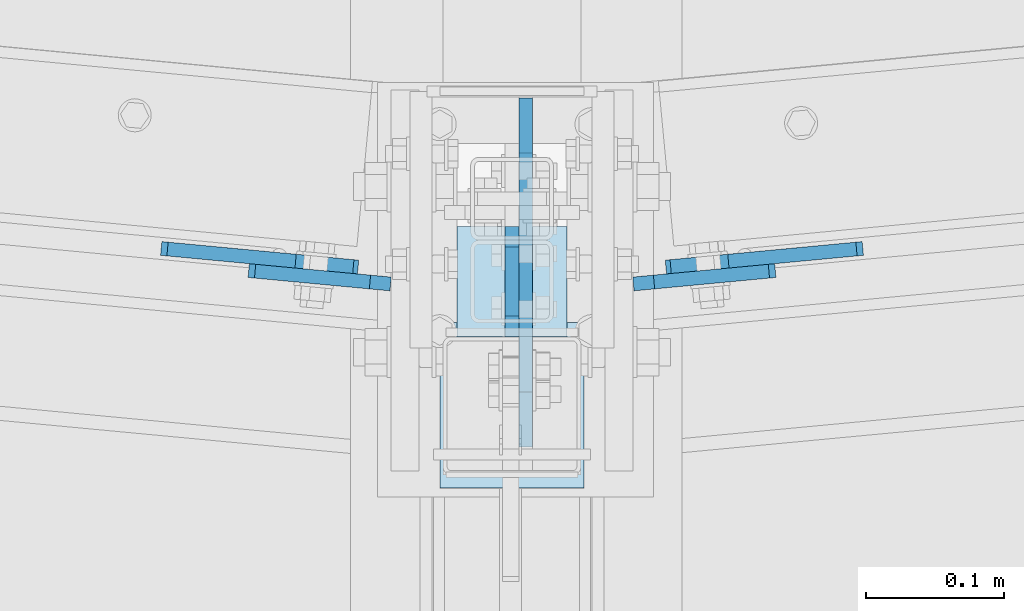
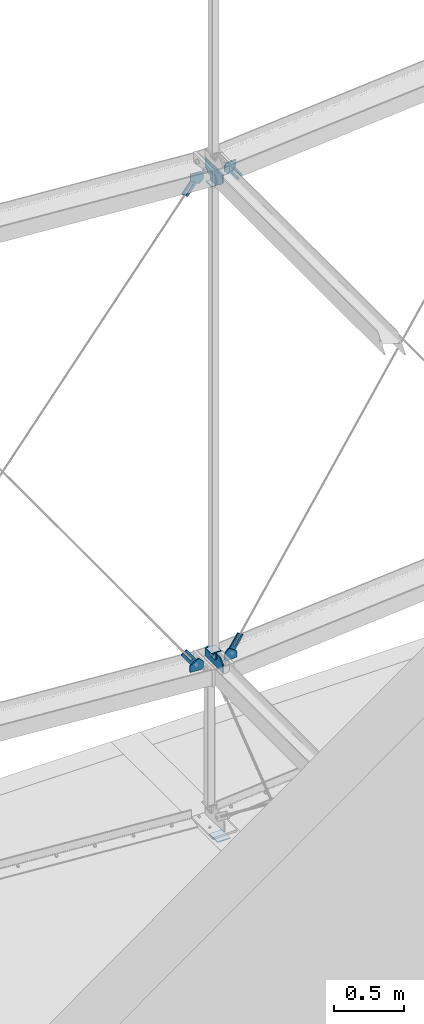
# One storey, part 130 of 271: 15 plates, 12 elements without a shape of their own.
"""IFC2X3 building model written with IfcOpenShell, lengths in millimetres."""

from ifc_helpers import new_model, si_unit, frame, origin_with_axes, place, context, subcontext, project, spatial, polyline, outline, extrude, material, type_object, element, aggregate, save


model = new_model("IFC2X3")

# Units and contexts
model_context = context("Model", 3, precision=1e-05, world=origin_with_axes())
body_context = subcontext(model_context, "Body", "Model", "MODEL_VIEW")
ifc_project = project(units=[si_unit("LENGTHUNIT", "METRE", prefix="MILLI"), si_unit("AREAUNIT", "SQUARE_METRE"), si_unit("VOLUMEUNIT", "CUBIC_METRE"), si_unit("MASSUNIT", "GRAM", prefix="KILO"), si_unit("TIMEUNIT", "SECOND"), si_unit("PLANEANGLEUNIT", "RADIAN"), si_unit("SOLIDANGLEUNIT", "STERADIAN"), si_unit("THERMODYNAMICTEMPERATUREUNIT", "DEGREE_CELSIUS"), si_unit("LUMINOUSINTENSITYUNIT", "LUMEN")], contexts=[model_context])

# Site, building, storey
site_placement = place(None, origin_with_axes())
site = spatial("IfcSite", under=ifc_project, at=site_placement, Name="Undefined", CompositionType="ELEMENT")
building_placement = place(site_placement, origin_with_axes())
building = spatial("IfcBuilding", under=site, at=building_placement, Name="Undefined", CompositionType="ELEMENT")
storey_placement = place(building_placement, origin_with_axes())
storey = spatial("IfcBuildingStorey", under=building, at=storey_placement, Name="Undefined", CompositionType="ELEMENT", Elevation=0.0)

# Assembly, plates
assembly_1_placement = place(storey_placement, origin_with_axes())
assembly_1 = element("IfcElementAssembly", 1, at=assembly_1_placement, inside=storey, AssemblyPlace="NOTDEFINED", PredefinedType="RIGID_FRAME")
ifc_material = material(Name="STEEL/S355JR")
plate_type_1 = type_object("IfcPlateType", Name="BL10*70", PredefinedType="NOTDEFINED")
plate_1_placement = place(assembly_1_placement, frame((6348.37568736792, 3664.92439872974, 5606.59999990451), z_axis=(-1.0, 0.0, 1.38777878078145e-17), x_axis=(0.0, 0.707106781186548, 0.707106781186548)))
plate_1 = element("IfcPlate", 2, at=plate_1_placement, type_object=plate_type_1, material=ifc_material, Name="BLACHA", ObjectType="BL10*70", context=body_context, shape_type="SweptSolid", body=[
    extrude(outline(polyline([(0.0, 0.0), (21.2132034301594, 1.09139364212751e-11), (56.5685424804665, 35.3553390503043), (56.568542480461, 56.5685424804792), (17.6776695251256, 95.4594192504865), (-38.890872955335, 38.8908729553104), (0.0, 0.0)])), frame((0.0, 0.0, -5.0), z_axis=(0.0, 0.0, 1.0), x_axis=(1.0, 0.0, 0.0)), (0.0, 0.0, 1.0), 10.0),
])
plate_2_placement = place(assembly_1_placement, frame((6348.37568736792, 3744.92439872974, 1442.09999990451), z_axis=(-1.0, 0.0, 1.38777878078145e-17), x_axis=(0.0, -0.707106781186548, -0.707106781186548)))
plate_2 = element("IfcPlate", 3, at=plate_2_placement, type_object=plate_type_1, material=ifc_material, Name="BLACHA", ObjectType="BL10*70", context=body_context, shape_type="SweptSolid", body=[
    extrude(outline(polyline([(0.0, 0.0), (21.2132034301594, 1.09139364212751e-11), (56.5685424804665, 35.3553390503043), (56.568542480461, 56.5685424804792), (17.6776695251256, 95.4594192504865), (-38.890872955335, 38.8908729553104), (0.0, 0.0)])), frame((0.0, 0.0, -5.0), z_axis=(0.0, 0.0, 1.0), x_axis=(1.0, 0.0, 0.0)), (0.0, 0.0, 1.0), 10.0),
])

# Assembly, plate
assembly_2_placement = place(storey_placement, origin_with_axes())
assembly_2 = element("IfcElementAssembly", 4, at=assembly_2_placement, inside=storey, AssemblyPlace="NOTDEFINED", PredefinedType="RIGID_FRAME")
plate_type_2 = type_object("IfcPlateType", Name="BL8*104", PredefinedType="NOTDEFINED")
plate_3_placement = place(assembly_2_placement, frame((6400.37568736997, 3675.32498425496, -59.6500000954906), z_axis=(0.0, 0.0, 1.0), x_axis=(-1.0, 0.0, 1.38777878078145e-17)))
plate_3 = element("IfcPlate", 5, at=plate_3_placement, type_object=plate_type_2, material=ifc_material, Name="BLACHA", ObjectType="BL8*104", context=body_context, shape_type="SweptSolid", body=[
    extrude(outline(polyline([(0.0, 0.0), (104.0, 0.0), (104.0, 120.0), (0.0, 120.0), (0.0, 0.0)])), frame((0.0, 0.0, -4.0), z_axis=(0.0, 0.0, 1.0), x_axis=(1.0, 0.0, 0.0)), (0.0, 0.0, 1.0), 8.0),
])
aggregate(assembly_2, [plate_3])

# Plate
plate_type_3 = type_object("IfcPlateType", Name="BL8*80", PredefinedType="NOTDEFINED")
plate_4_placement = place(assembly_1_placement, frame((6388.37568736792, 3664.92439872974, 5547.59999990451), z_axis=(0.0, 0.0, 1.0), x_axis=(0.0, 1.0, 0.0)))
plate_4 = element("IfcPlate", 6, at=plate_4_placement, type_object=plate_type_3, material=ifc_material, Name="BLACHA", ObjectType="BL8*80", context=body_context, shape_type="SweptSolid", body=[
    extrude(outline(polyline([(0.0, 0.0), (80.0, 0.0), (80.0, 80.0), (0.0, 80.0), (0.0, 0.0)])), frame((0.0, 0.0, -4.0), z_axis=(0.0, 0.0, 1.0), x_axis=(1.0, 0.0, 0.0)), (0.0, 0.0, 1.0), 8.0),
])

plate_5_placement = place(assembly_1_placement, frame((6388.37568736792, 3744.92439872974, 1501.09999990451), z_axis=(0.0, 0.0, -1.0), x_axis=(0.0, -1.0, 0.0)))
plate_5 = element("IfcPlate", 7, at=plate_5_placement, type_object=plate_type_3, material=ifc_material, Name="BLACHA", ObjectType="BL8*80", context=body_context, shape_type="SweptSolid", body=[
    extrude(outline(polyline([(0.0, 0.0), (80.0, 0.0), (80.0, 80.0), (0.0, 80.0), (0.0, 0.0)])), frame((0.0, 0.0, -4.0), z_axis=(0.0, 0.0, 1.0), x_axis=(1.0, 0.0, 0.0)), (0.0, 0.0, 1.0), 8.0),
])

aggregate(assembly_1, [plate_4, plate_1, plate_5, plate_2])

# Assembly, plate
assembly_3_placement = place(storey_placement, origin_with_axes())
assembly_3 = element("IfcElementAssembly", 8, at=assembly_3_placement, inside=storey, AssemblyPlace="NOTDEFINED", PredefinedType="RIGID_FRAME")
plate_type_4 = type_object("IfcPlateType", Name="BL10*56", PredefinedType="NOTDEFINED")
plate_6_placement = place(assembly_3_placement, frame((6509.82885131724, 3720.15930430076, 1399.84702280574), z_axis=(-0.0939225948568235, 0.9955794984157, -9.2248054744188e-05), x_axis=(-0.982184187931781, -0.0926740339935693, -0.163480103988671)))
plate_6 = element("IfcPlate", 9, at=plate_6_placement, type_object=plate_type_4, material=ifc_material, Name="BLACHA", ObjectType="BL10*56", context=body_context, shape_type="SweptSolid", body=[
    extrude(outline(polyline([(0.0, 0.0), (21.2132034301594, 1.09139364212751e-11), (39.5650482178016, 18.3518447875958), (39.5650482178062, 39.5650482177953), (-73.5720367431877, 152.702133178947), (-87.7141723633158, 138.559997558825), (-17.0034942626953, 67.8493194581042), (-28.2842712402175, 56.5685424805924), (-98.9949493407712, 127.279220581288), (-113.137084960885, 113.137084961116), (0.0, 0.0)])), frame((0.0, 0.0, -5.0), z_axis=(0.0, 0.0, 1.0), x_axis=(1.0, 0.0, 0.0)), (0.0, 0.0, 1.0), 10.0),
])
aggregate(assembly_3, [plate_6])

assembly_4_placement = place(storey_placement, origin_with_axes())
assembly_4 = element("IfcElementAssembly", 10, at=assembly_4_placement, inside=storey, AssemblyPlace="NOTDEFINED", PredefinedType="RIGID_FRAME")
plate_7_placement = place(assembly_4_placement, frame((6459.89796919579, 3715.45126298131, 5616.26169910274), z_axis=(-0.0939225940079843, 0.995579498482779, 9.23882579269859e-05), x_axis=(0.162055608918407, 0.0151967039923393, 0.986664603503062)))
plate_7 = element("IfcPlate", 11, at=plate_7_placement, type_object=plate_type_4, material=ifc_material, Name="BLACHA", ObjectType="BL10*56", context=body_context, shape_type="SweptSolid", body=[
    extrude(outline(polyline([(0.0, 0.0), (21.2132034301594, 1.09139364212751e-11), (39.5650825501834, 18.3518791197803), (39.565082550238, 39.5650825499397), (-73.5719985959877, 152.702163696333), (-87.714134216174, 138.560028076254), (-17.0034599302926, 67.8493576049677), (-28.2842712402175, 56.5685424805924), (-98.9949493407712, 127.279220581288), (-113.137084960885, 113.137084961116), (0.0, 0.0)])), frame((0.0, 0.0, -5.0), z_axis=(0.0, 0.0, 1.0), x_axis=(1.0, 0.0, 0.0)), (0.0, 0.0, 1.0), 10.0),
])
aggregate(assembly_4, [plate_7])

assembly_5_placement = place(storey_placement, origin_with_axes())
assembly_5 = element("IfcElementAssembly", 12, at=assembly_5_placement, inside=storey, AssemblyPlace="NOTDEFINED", PredefinedType="RIGID_FRAME")
plate_8_placement = place(assembly_5_placement, frame((6191.57713234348, 3719.71982547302, 5648.85929465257), z_axis=(0.0939225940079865, 0.995579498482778, 9.2388257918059e-05), x_axis=(0.982301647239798, -0.0926850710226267, 0.162766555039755)))
plate_8 = element("IfcPlate", 13, at=plate_8_placement, type_object=plate_type_4, material=ifc_material, Name="BLACHA", ObjectType="BL10*56", context=body_context, shape_type="SweptSolid", body=[
    extrude(outline(polyline([(0.0, 0.0), (21.2132034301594, 1.09139364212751e-11), (39.564743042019, 18.3515396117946), (39.5647430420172, 39.5647430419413), (-73.5723419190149, 152.701828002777), (-87.7144775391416, 138.559692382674), (-17.0037994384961, 67.8490142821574), (-28.2842712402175, 56.5685424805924), (-98.9949493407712, 127.279220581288), (-113.137084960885, 113.137084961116), (0.0, 0.0)])), frame((0.0, 0.0, -5.0), z_axis=(0.0, 0.0, 1.0), x_axis=(1.0, 0.0, 0.0)), (0.0, 0.0, 1.0), 10.0),
])
aggregate(assembly_5, [plate_8])

assembly_6_placement = place(storey_placement, origin_with_axes())
assembly_6 = element("IfcElementAssembly", 14, at=assembly_6_placement, inside=storey, AssemblyPlace="NOTDEFINED", PredefinedType="RIGID_FRAME")
plate_9_placement = place(assembly_6_placement, frame((6232.22246078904, 3715.88898369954, 1432.41140963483), z_axis=(0.0939225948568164, 0.995579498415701, -9.22480547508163e-05), x_axis=(-0.162765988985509, 0.0152638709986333, -0.986546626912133)))
plate_9 = element("IfcPlate", 15, at=plate_9_placement, type_object=plate_type_4, material=ifc_material, Name="BLACHA", ObjectType="BL10*56", context=body_context, shape_type="SweptSolid", body=[
    extrude(outline(polyline([(0.0, 0.0), (21.2132034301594, 1.09139364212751e-11), (39.5647087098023, 18.3515052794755), (39.5647087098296, 39.5647087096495), (-73.5723724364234, 152.701797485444), (-87.7145080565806, 138.559661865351), (-17.0038337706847, 67.8489837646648), (-28.2842712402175, 56.5685424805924), (-98.9949493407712, 127.279220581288), (-113.137084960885, 113.137084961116), (0.0, 0.0)])), frame((0.0, 0.0, -5.0), z_axis=(0.0, 0.0, 1.0), x_axis=(1.0, 0.0, 0.0)), (0.0, 0.0, 1.0), 10.0),
])
aggregate(assembly_6, [plate_9])

assembly_7_placement = place(storey_placement, origin_with_axes())
assembly_7 = element("IfcElementAssembly", 16, at=assembly_7_placement, inside=storey, AssemblyPlace="NOTDEFINED", PredefinedType="RIGID_FRAME")
plate_type_5 = type_object("IfcPlateType", Name="BL10*99", PredefinedType="NOTDEFINED")
plate_10_placement = place(assembly_7_placement, frame((6539.14422400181, 3712.8776408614, 1367.64999984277), z_axis=(-0.0939225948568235, 0.9955794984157, -9.2248054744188e-05), x_axis=(-0.995579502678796, -0.0939225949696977, 0.0)))
plate_10 = element("IfcPlate", 17, at=plate_10_placement, type_object=plate_type_5, material=ifc_material, Name="BLACHA", ObjectType="BL10*99", context=body_context, shape_type="SweptSolid", body=[
    extrude(outline(polyline([(0.0, 0.0), (88.254516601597, -1.55474100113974e-12), (103.254516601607, 14.9999999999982), (103.254516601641, 69.0442123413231), (73.2545166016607, 99.044212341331), (61.764698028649, 99.0442123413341), (-2.72848410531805e-12, 54.8396263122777), (0.0, 0.0)])), frame((0.0, 0.0, -5.0), z_axis=(0.0, 0.0, 1.0), x_axis=(1.0, 0.0, 0.0)), (0.0, 0.0, 1.0), 10.0),
])
aggregate(assembly_7, [plate_10])

assembly_8_placement = place(storey_placement, origin_with_axes())
assembly_8 = element("IfcElementAssembly", 18, at=assembly_8_placement, inside=storey, AssemblyPlace="NOTDEFINED", PredefinedType="RIGID_FRAME")
plate_11_placement = place(assembly_8_placement, frame((6436.34528885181, 3703.17901832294, 5681.04999996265), z_axis=(-0.0939225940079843, 0.995579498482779, 9.23882579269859e-05), x_axis=(0.995579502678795, 0.0939225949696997, 0.0)))
plate_11 = element("IfcPlate", 19, at=plate_11_placement, type_object=plate_type_5, material=ifc_material, Name="BLACHA", ObjectType="BL10*99", context=body_context, shape_type="SweptSolid", body=[
    extrude(outline(polyline([(0.0, 15.0), (15.0, -1.59872115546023e-14), (98.5967864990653, 7.26885218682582e-12), (98.5967864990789, 54.8126907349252), (36.8640327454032, 99.0619659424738), (29.9999999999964, 99.0619659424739), (-2.52972563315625e-12, 69.0619659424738), (0.0, 15.0)])), frame((0.0, 0.0, -5.0), z_axis=(0.0, 0.0, 1.0), x_axis=(1.0, 0.0, 0.0)), (0.0, 0.0, 1.0), 10.0),
])
aggregate(assembly_8, [plate_11])

assembly_9_placement = place(storey_placement, origin_with_axes())
assembly_9 = element("IfcElementAssembly", 20, at=assembly_9_placement, inside=storey, AssemblyPlace="NOTDEFINED", PredefinedType="RIGID_FRAME")
plate_12_placement = place(assembly_9_placement, frame((6162.2455350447, 3712.44045247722, 5681.05000003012), z_axis=(0.0939225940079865, 0.995579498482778, 9.2388257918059e-05), x_axis=(0.995579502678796, -0.0939225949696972, 0.0)))
plate_12 = element("IfcPlate", 21, at=plate_12_placement, type_object=plate_type_5, material=ifc_material, Name="BLACHA", ObjectType="BL10*99", context=body_context, shape_type="SweptSolid", body=[
    extrude(outline(polyline([(0.0, 0.0), (83.5956039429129, -2.15915635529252e-11), (98.5956039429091, 14.9999999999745), (98.5956039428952, 69.0616836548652), (68.5956039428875, 99.0616836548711), (61.7323608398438, 99.0616836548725), (-5.54791768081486e-11, 54.8126907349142), (0.0, 0.0)])), frame((0.0, 0.0, -5.0), z_axis=(0.0, 0.0, 1.0), x_axis=(1.0, 0.0, 0.0)), (0.0, 0.0, 1.0), 10.0),
])
aggregate(assembly_9, [plate_12])

assembly_10_placement = place(storey_placement, origin_with_axes())
assembly_10 = element("IfcElementAssembly", 22, at=assembly_10_placement, inside=storey, AssemblyPlace="NOTDEFINED", PredefinedType="RIGID_FRAME")
plate_13_placement = place(assembly_10_placement, frame((6260.40615675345, 3703.18062618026, 1367.64999977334), z_axis=(0.0939225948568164, 0.995579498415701, -9.22480547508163e-05), x_axis=(-0.995579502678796, 0.0939225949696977, 0.0)))
plate_13 = element("IfcPlate", 23, at=plate_13_placement, type_object=plate_type_5, material=ifc_material, Name="BLACHA", ObjectType="BL10*99", context=body_context, shape_type="SweptSolid", body=[
    extrude(outline(polyline([(0.0, 15.0), (15.0, -1.59872115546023e-14), (103.255058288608, 1.27826638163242e-11), (103.255058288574, 54.8396263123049), (41.4907493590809, 99.0439300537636), (30.00000000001, 99.0439300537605), (6.98277852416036e-12, 69.0439300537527), (0.0, 15.0)])), frame((0.0, 0.0, -5.0), z_axis=(0.0, 0.0, 1.0), x_axis=(1.0, 0.0, 0.0)), (0.0, 0.0, 1.0), 10.0),
])
aggregate(assembly_10, [plate_13])

assembly_11_placement = place(storey_placement, origin_with_axes())
assembly_11 = element("IfcElementAssembly", 24, at=assembly_11_placement, inside=storey, AssemblyPlace="NOTDEFINED", PredefinedType="RIGID_FRAME")
plate_type_6 = type_object("IfcPlateType", Name="BL10*110", PredefinedType="NOTDEFINED")
plate_14_placement = place(assembly_11_placement, frame((6358.37568736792, 3584.92439872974, 5681.59999990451), z_axis=(-1.0, 0.0, 1.38777878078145e-17), x_axis=(0.0, 1.0, 0.0)))
plate_14 = element("IfcPlate", 25, at=plate_14_placement, type_object=plate_type_6, material=ifc_material, Name="BLACHA", ObjectType="BL10*110", context=body_context, shape_type="SweptSolid", body=[
    extrude(outline(polyline([(0.0, 0.0), (253.0, 0.0), (253.0, 70.0), (213.0, 110.0), (40.0, 110.0), (0.0, 70.0), (0.0, 0.0)])), frame((0.0, 0.0, -5.0), z_axis=(0.0, 0.0, 1.0), x_axis=(1.0, 0.0, 0.0)), (0.0, 0.0, 1.0), 10.0),
])
aggregate(assembly_11, [plate_14])

assembly_12_placement = place(storey_placement, origin_with_axes())
assembly_12 = element("IfcElementAssembly", 26, at=assembly_12_placement, inside=storey, AssemblyPlace="NOTDEFINED", PredefinedType="RIGID_FRAME")
plate_15_placement = place(assembly_12_placement, frame((6358.37568736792, 3837.92439872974, 1367.09999990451), z_axis=(-1.0, 0.0, 1.38777878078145e-17), x_axis=(0.0, -1.0, 0.0)))
plate_15 = element("IfcPlate", 27, at=plate_15_placement, type_object=plate_type_6, material=ifc_material, Name="BLACHA", ObjectType="BL10*110", context=body_context, shape_type="SweptSolid", body=[
    extrude(outline(polyline([(0.0, 0.0), (253.0, 0.0), (253.0, 70.0), (213.0, 110.0), (40.0, 110.0), (0.0, 70.0), (0.0, 0.0)])), frame((0.0, 0.0, -5.0), z_axis=(0.0, 0.0, 1.0), x_axis=(1.0, 0.0, 0.0)), (0.0, 0.0, 1.0), 10.0),
])
aggregate(assembly_12, [plate_15])

save(model, "model.ifc")
